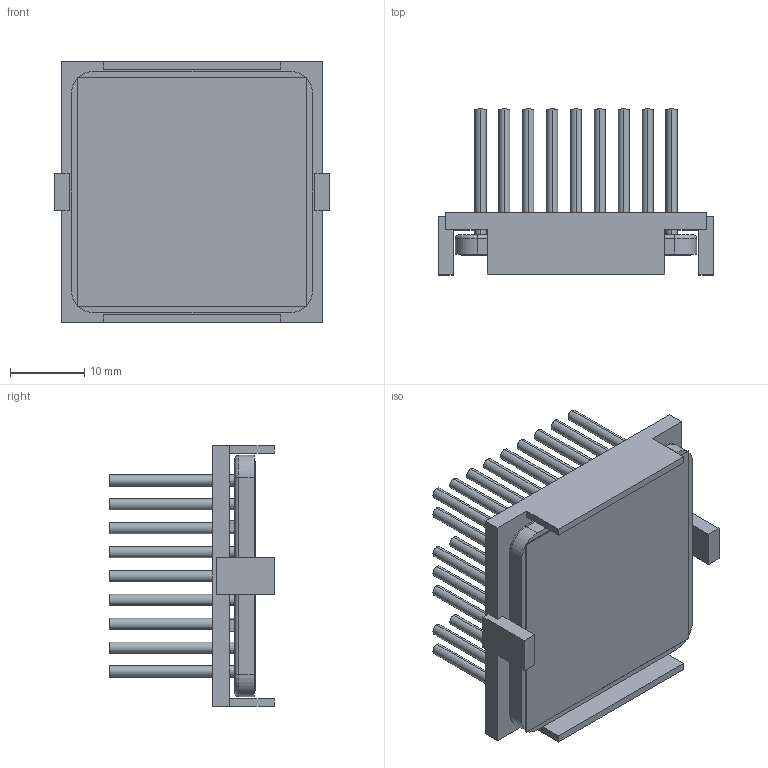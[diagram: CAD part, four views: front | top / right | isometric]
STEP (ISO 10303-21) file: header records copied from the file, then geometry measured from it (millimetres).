
FILE_DESCRIPTION (( 'STEP AP214' ), '1' );
FILE_NAME ('INM33002-20P-2.6K33.STEP', '2023-03-02T20:08:56', ( '' ), ( '' ), 'SwSTEP 2.0', 'SolidWorks 2020', '' );
FILE_SCHEMA (( 'AUTOMOTIVE_DESIGN' ));
Length unit declared in the file: inch
Products named in the file (1): INM33002-20P-2.6K33
Bounding box: 37.2 x 22.4 x 35.2 mm (x, y, z)
Volume: 6621.3 mm3; surface area: 12688.8 mm2
Topology: 3 solids, 3 shells, 297 faces, 646 edges, 428 vertices
Faces by surface type: cylinder 154, plane 139, torus 4
Entity records: 12155 total; most frequent: DIRECTION 1554, CARTESIAN_POINT 1372, ORIENTED_EDGE 1292, EDGE_CURVE 646, AXIS2_PLACEMENT_3D 610, VERTEX_POINT 428, EDGE_LOOP 372, VECTOR 334
